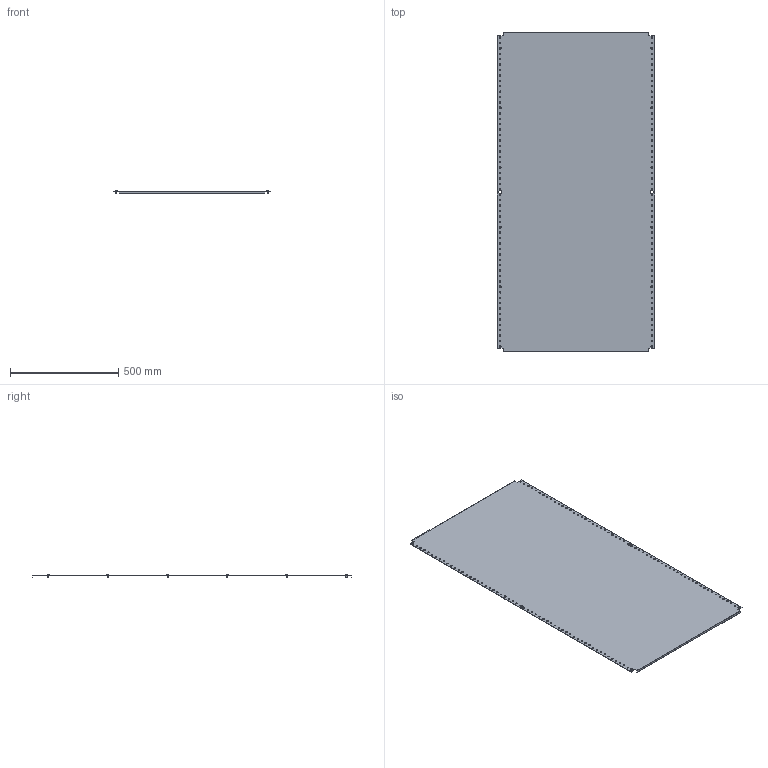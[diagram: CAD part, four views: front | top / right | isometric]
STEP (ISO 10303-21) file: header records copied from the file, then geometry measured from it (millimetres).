
FILE_DESCRIPTION (( 'STEP AP203' ), '1' );
FILE_NAME ('R6MP1680.STEP', '2025-03-28T12:09:44', ( '' ), ( '' ), 'SwSTEP 2.0', 'SolidWorks 2022', '' );
FILE_SCHEMA (( 'CONFIG_CONTROL_DESIGN' ));
Length unit declared in the file: millimetre
Products named in the file (3): M5x12 DIN 7500 C Torx Zinc_stright; RB.3293.00.00.0_-18; R6MP1680
Assembly tree (13 placements, depth 2):
  R6MP1680
    RB.3293.00.00.0_-18
    M5x12 DIN 7500 C Torx Zinc_stright  x12
Bounding box: 725 x 1470 x 15.56 mm (x, y, z)
Volume: 1932908.6 mm3; surface area: 2159498 mm2
Topology: 13 solids, 13 shells, 342 faces, 804 edges, 500 vertices
Faces by surface type: cylinder 144, plane 126, torus 24, cone 24, sphere 12, bspline 12
Full cylindrical faces by diameter (mm): 5 x12, 6.5 x116, 9.5 x12
Entity records: 6213 total; most frequent: CARTESIAN_POINT 1044, DIRECTION 956, ORIENTED_EDGE 696, EDGE_LOOP 526, AXIS2_PLACEMENT_3D 434, EDGE_CURVE 348, VERTEX_POINT 310, FACE_OUTER_BOUND 288
